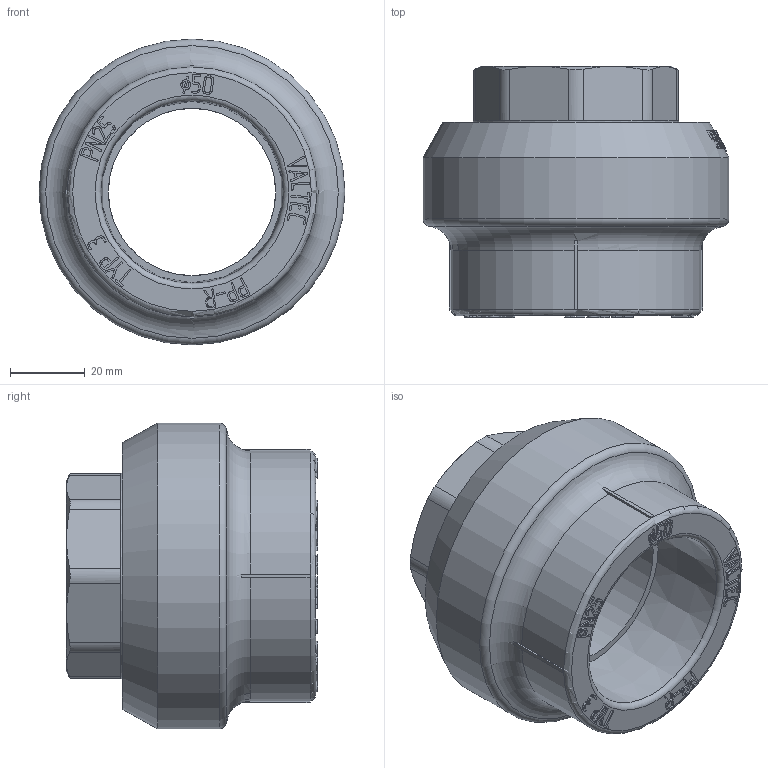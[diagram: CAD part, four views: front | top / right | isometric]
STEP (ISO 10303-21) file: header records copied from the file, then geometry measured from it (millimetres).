
FILE_DESCRIPTION(('STEP AP203'), '1');
FILE_NAME('ÂÐ.753153.018 - VTp.706.0.05008', '', ('UNSPECIFIED'), ('UNSPECIFIED'), 'C3D Converter', 'C3D Toolkit', '');
FILE_SCHEMA(('CONFIG_CONTROL_DESIGN'));
Length unit declared in the file: millimetre
Products named in the file (4): ВР.753153.018; ВР.302639.018.000; ВР.753154.019
Assembly tree (3 placements, depth 3):
  ВР.753153.018
    ВР.302639.018.000
      ВР.753154.019
      (unnamed)
Bounding box: 82 x 67.3 x 82 mm (x, y, z)
Volume: 148278.3 mm3; surface area: 55554.4 mm2
Topology: 3 solids, 3 shells, 854 faces, 2354 edges, 1565 vertices
Faces by surface type: extrusion 429, plane 363, cylinder 36, cone 21, torus 5
Full cylindrical faces by diameter (mm): 44.846 x1, 44.9 x1, 52 x2, 55.2 x1, 57 x8, 62 x10, 82 x1
Entity records: 31394 total; most frequent: CARTESIAN_POINT 11397, ORIENTED_EDGE 4614, DIRECTION 2763, EDGE_CURVE 2307, VECTOR 1601, VERTEX_POINT 1553, B_SPLINE_CURVE_WITH_KNOTS 1413, LINE 1172
